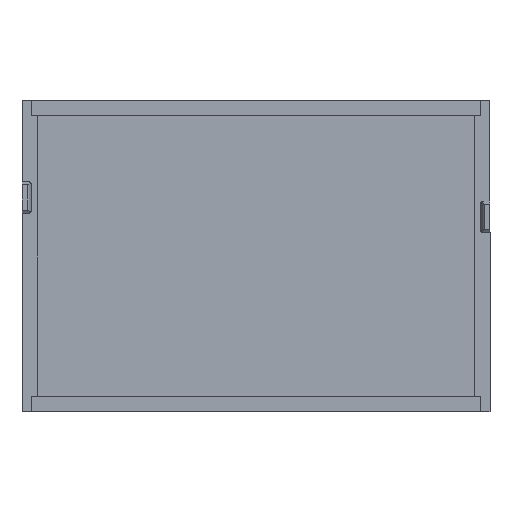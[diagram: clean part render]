
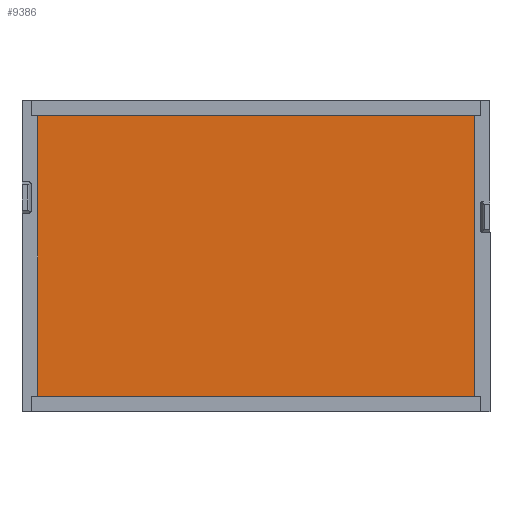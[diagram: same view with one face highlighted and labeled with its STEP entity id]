
A CAD part, front view. The second image highlights one B-rep face of the part: STEP entity #9386.
In plain terms, the highlighted planar face has unit normal (0, -1, 0).
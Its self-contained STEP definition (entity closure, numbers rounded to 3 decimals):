
#166 = VERTEX_POINT ( 'NONE', #3095 ) ;
#388 = CARTESIAN_POINT ( 'NONE',  ( 139.775, 0.2, -89.775 ) ) ;
#855 = VERTEX_POINT ( 'NONE', #9726 ) ;
#872 = CARTESIAN_POINT ( 'NONE',  ( -139.775, 0.2, 89.775 ) ) ;
#2419 = EDGE_CURVE ( 'NONE', #855, #5349, #6256, .T. ) ;
#2531 = CARTESIAN_POINT ( 'NONE',  ( 139.775, 0.2, 89.775 ) ) ;
#2579 = DIRECTION ( 'NONE',  ( -1., 0., 0. ) ) ;
#2599 = DIRECTION ( 'NONE',  ( 0., 0., -1. ) ) ;
#2677 = ORIENTED_EDGE ( 'NONE', *, *, #5601, .T. ) ;
#2735 = ORIENTED_EDGE ( 'NONE', *, *, #4815, .T. ) ;
#2761 = ORIENTED_EDGE ( 'NONE', *, *, #5204, .T. ) ;
#3095 = CARTESIAN_POINT ( 'NONE',  ( -139.775, 0.2, -89.775 ) ) ;
#3407 = LINE ( 'NONE', #7524, #7076 ) ;
#3548 = LINE ( 'NONE', #872, #3843 ) ;
#3843 = VECTOR ( 'NONE', #2599, 1000. ) ;
#3844 = CARTESIAN_POINT ( 'NONE',  ( 139.775, 0.2, -89.775 ) ) ;
#4815 = EDGE_CURVE ( 'NONE', #5349, #166, #3548, .T. ) ;
#5204 = EDGE_CURVE ( 'NONE', #5851, #855, #3407, .T. ) ;
#5326 = LINE ( 'NONE', #388, #10117 ) ;
#5349 = VERTEX_POINT ( 'NONE', #5819 ) ;
#5399 = ORIENTED_EDGE ( 'NONE', *, *, #2419, .T. ) ;
#5496 = FACE_OUTER_BOUND ( 'NONE', #7271, .T. ) ;
#5601 = EDGE_CURVE ( 'NONE', #166, #5851, #5326, .T. ) ;
#5819 = CARTESIAN_POINT ( 'NONE',  ( -139.775, 0.2, 89.775 ) ) ;
#5851 = VERTEX_POINT ( 'NONE', #3844 ) ;
#6006 = DIRECTION ( 'NONE',  ( 1., 0., 0. ) ) ;
#6256 = LINE ( 'NONE', #2531, #9470 ) ;
#7076 = VECTOR ( 'NONE', #7471, 1000. ) ;
#7271 = EDGE_LOOP ( 'NONE', ( #2761, #5399, #2735, #2677 ) ) ;
#7471 = DIRECTION ( 'NONE',  ( 0., 0., 1. ) ) ;
#7524 = CARTESIAN_POINT ( 'NONE',  ( 139.775, 0.2, 89.775 ) ) ;
#8037 = DIRECTION ( 'NONE',  ( 0., 0., -1. ) ) ;
#8064 = DIRECTION ( 'NONE',  ( 0., -1., 0. ) ) ;
#8066 = PLANE ( 'NONE',  #8114 ) ;
#8114 = AXIS2_PLACEMENT_3D ( 'NONE', #8144, #8064, #8037 ) ;
#8144 = CARTESIAN_POINT ( 'NONE',  ( 0., 0.2, 0. ) ) ;
#9386 = ADVANCED_FACE ( 'NONE', ( #5496 ), #8066, .T. ) ;
#9470 = VECTOR ( 'NONE', #2579, 1000. ) ;
#9726 = CARTESIAN_POINT ( 'NONE',  ( 139.775, 0.2, 89.775 ) ) ;
#10117 = VECTOR ( 'NONE', #6006, 1000. ) ;
